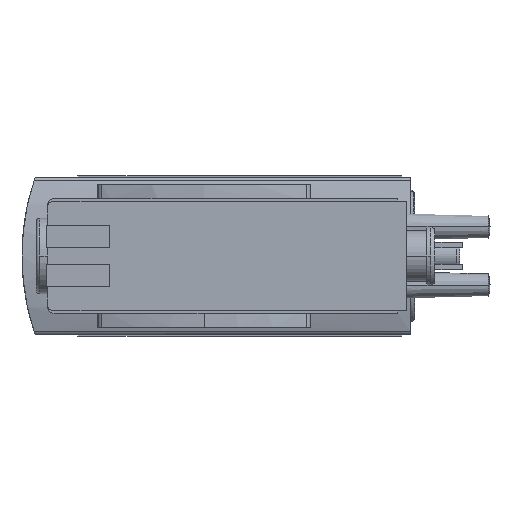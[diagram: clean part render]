
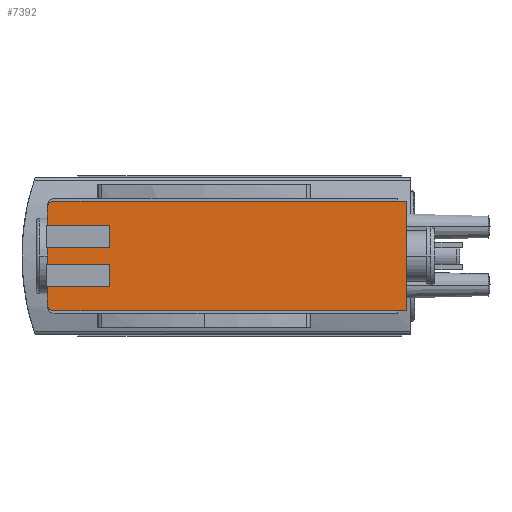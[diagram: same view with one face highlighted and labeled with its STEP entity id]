
A CAD part, left-side view. The second image highlights one B-rep face of the part: STEP entity #7392.
In plain terms, the highlighted planar face has unit normal (-1, 0, 0).
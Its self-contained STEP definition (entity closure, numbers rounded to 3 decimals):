
#270 = ORIENTED_EDGE ( 'NONE', *, *, #10659, .F. ) ;
#406 = ORIENTED_EDGE ( 'NONE', *, *, #8099, .F. ) ;
#555 = CARTESIAN_POINT ( 'NONE',  ( -71.35, 26.15, 0.75 ) ) ;
#593 = DIRECTION ( 'NONE',  ( 0., 0., 1. ) ) ;
#823 = AXIS2_PLACEMENT_3D ( 'NONE', #4432, #14980, #5825 ) ;
#1229 = CARTESIAN_POINT ( 'NONE',  ( -71.35, 31.731, 4.4 ) ) ;
#1341 = DIRECTION ( 'NONE',  ( 0., -1., 0. ) ) ;
#1432 = CARTESIAN_POINT ( 'NONE',  ( -71.35, 29.631, -0.75 ) ) ;
#1532 = ORIENTED_EDGE ( 'NONE', *, *, #5863, .T. ) ;
#1560 = CARTESIAN_POINT ( 'NONE',  ( -71.35, -0.45, -4.9 ) ) ;
#1659 = CIRCLE ( 'NONE', #823, 0.5 ) ;
#1735 = DIRECTION ( 'NONE',  ( 0., 0., 1. ) ) ;
#1755 = VECTOR ( 'NONE', #1735, 1000. ) ;
#1895 = CARTESIAN_POINT ( 'NONE',  ( -71.35, 31.231, -4.9 ) ) ;
#1948 = VERTEX_POINT ( 'NONE', #1560 ) ;
#2012 = LINE ( 'NONE', #7342, #12305 ) ;
#2026 = VERTEX_POINT ( 'NONE', #16466 ) ;
#2312 = VECTOR ( 'NONE', #17006, 1000. ) ;
#2545 = LINE ( 'NONE', #1229, #15784 ) ;
#2740 = LINE ( 'NONE', #7708, #8446 ) ;
#2876 = VECTOR ( 'NONE', #6023, 1000. ) ;
#3172 = AXIS2_PLACEMENT_3D ( 'NONE', #4460, #15261, #11264 ) ;
#3396 = CARTESIAN_POINT ( 'NONE',  ( -71.35, 31.731, 4.4 ) ) ;
#3590 = ORIENTED_EDGE ( 'NONE', *, *, #13694, .F. ) ;
#3740 = EDGE_CURVE ( 'NONE', #10544, #11426, #16564, .T. ) ;
#3948 = LINE ( 'NONE', #5160, #2312 ) ;
#4032 = DIRECTION ( 'NONE',  ( 0., 0., 1. ) ) ;
#4161 = EDGE_CURVE ( 'NONE', #9317, #2026, #4946, .T. ) ;
#4294 = DIRECTION ( 'NONE',  ( 0., 0., 1. ) ) ;
#4319 = DIRECTION ( 'NONE',  ( 0., 0., -1. ) ) ;
#4343 = CARTESIAN_POINT ( 'NONE',  ( -71.35, -0.45, -6. ) ) ;
#4348 = EDGE_CURVE ( 'NONE', #11379, #1948, #13469, .T. ) ;
#4432 = CARTESIAN_POINT ( 'NONE',  ( -71.35, 31.231, -4.4 ) ) ;
#4460 = CARTESIAN_POINT ( 'NONE',  ( -71.35, 28.366, 4.4 ) ) ;
#4946 = LINE ( 'NONE', #16071, #12627 ) ;
#5160 = CARTESIAN_POINT ( 'NONE',  ( -71.35, 31.731, 4.4 ) ) ;
#5349 = VERTEX_POINT ( 'NONE', #12641 ) ;
#5602 = CARTESIAN_POINT ( 'NONE',  ( -71.35, 26.15, 4.4 ) ) ;
#5616 = VERTEX_POINT ( 'NONE', #9910 ) ;
#5628 = CARTESIAN_POINT ( 'NONE',  ( -71.35, -0.85, -4.9 ) ) ;
#5677 = LINE ( 'NONE', #5751, #1755 ) ;
#5714 = DIRECTION ( 'NONE',  ( 1., 0., 0. ) ) ;
#5751 = CARTESIAN_POINT ( 'NONE',  ( -71.35, 26.15, 4.4 ) ) ;
#5790 = CARTESIAN_POINT ( 'NONE',  ( -71.35, 31.231, 4.4 ) ) ;
#5825 = DIRECTION ( 'NONE',  ( 0., 0., -1. ) ) ;
#5863 = EDGE_CURVE ( 'NONE', #11558, #5349, #13213, .T. ) ;
#6023 = DIRECTION ( 'NONE',  ( 0., 1., 0. ) ) ;
#6080 = ORIENTED_EDGE ( 'NONE', *, *, #8369, .F. ) ;
#6173 = VECTOR ( 'NONE', #593, 1000. ) ;
#6352 = ORIENTED_EDGE ( 'NONE', *, *, #10848, .F. ) ;
#6418 = VERTEX_POINT ( 'NONE', #8252 ) ;
#6427 = ORIENTED_EDGE ( 'NONE', *, *, #3740, .T. ) ;
#6822 = EDGE_CURVE ( 'NONE', #14188, #15875, #2740, .T. ) ;
#6958 = CARTESIAN_POINT ( 'NONE',  ( -71.35, -0.45, 4.9 ) ) ;
#7150 = VERTEX_POINT ( 'NONE', #15620 ) ;
#7236 = LINE ( 'NONE', #3396, #6173 ) ;
#7342 = CARTESIAN_POINT ( 'NONE',  ( -71.35, 29.397, 2.75 ) ) ;
#7392 = ADVANCED_FACE ( 'NONE', ( #11170 ), #15434, .F. ) ;
#7656 = CARTESIAN_POINT ( 'NONE',  ( -71.35, 31.731, -0.75 ) ) ;
#7708 = CARTESIAN_POINT ( 'NONE',  ( -71.35, 26.15, 0.75 ) ) ;
#7798 = VECTOR ( 'NONE', #9805, 1000. ) ;
#8099 = EDGE_CURVE ( 'NONE', #5616, #2026, #15407, .T. ) ;
#8252 = CARTESIAN_POINT ( 'NONE',  ( -71.35, 26.15, 2.75 ) ) ;
#8368 = ORIENTED_EDGE ( 'NONE', *, *, #8879, .F. ) ;
#8369 = EDGE_CURVE ( 'NONE', #11441, #5616, #3948, .T. ) ;
#8446 = VECTOR ( 'NONE', #15894, 1000. ) ;
#8620 = EDGE_CURVE ( 'NONE', #11441, #6418, #2012, .T. ) ;
#8879 = EDGE_CURVE ( 'NONE', #10544, #5349, #5677, .T. ) ;
#8984 = EDGE_CURVE ( 'NONE', #7150, #11426, #7236, .T. ) ;
#9123 = CARTESIAN_POINT ( 'NONE',  ( -71.35, 31.731, -2.75 ) ) ;
#9317 = VERTEX_POINT ( 'NONE', #6958 ) ;
#9498 = VECTOR ( 'NONE', #13832, 1000. ) ;
#9543 = VECTOR ( 'NONE', #1341, 1000. ) ;
#9805 = DIRECTION ( 'NONE',  ( 0., -1., 0. ) ) ;
#9910 = CARTESIAN_POINT ( 'NONE',  ( -71.35, 31.731, 4.4 ) ) ;
#10544 = VERTEX_POINT ( 'NONE', #15280 ) ;
#10659 = EDGE_CURVE ( 'NONE', #11558, #15875, #2545, .T. ) ;
#10689 = AXIS2_PLACEMENT_3D ( 'NONE', #5790, #5714, #4319 ) ;
#10848 = EDGE_CURVE ( 'NONE', #14188, #6418, #14920, .T. ) ;
#10889 = LINE ( 'NONE', #4343, #9498 ) ;
#11004 = ORIENTED_EDGE ( 'NONE', *, *, #6822, .T. ) ;
#11170 = FACE_OUTER_BOUND ( 'NONE', #16996, .T. ) ;
#11201 = ORIENTED_EDGE ( 'NONE', *, *, #8620, .T. ) ;
#11264 = DIRECTION ( 'NONE',  ( 0., 0., -1. ) ) ;
#11379 = VERTEX_POINT ( 'NONE', #1895 ) ;
#11426 = VERTEX_POINT ( 'NONE', #9123 ) ;
#11441 = VERTEX_POINT ( 'NONE', #14353 ) ;
#11558 = VERTEX_POINT ( 'NONE', #7656 ) ;
#12305 = VECTOR ( 'NONE', #15516, 1000. ) ;
#12473 = CARTESIAN_POINT ( 'NONE',  ( -71.35, 26.15, -2.75 ) ) ;
#12627 = VECTOR ( 'NONE', #13378, 1000. ) ;
#12641 = CARTESIAN_POINT ( 'NONE',  ( -71.35, 26.15, -0.75 ) ) ;
#13213 = LINE ( 'NONE', #1432, #9543 ) ;
#13378 = DIRECTION ( 'NONE',  ( 0., 1., 0. ) ) ;
#13469 = LINE ( 'NONE', #5628, #7798 ) ;
#13694 = EDGE_CURVE ( 'NONE', #9317, #1948, #10889, .T. ) ;
#13832 = DIRECTION ( 'NONE',  ( 0., 0., -1. ) ) ;
#13983 = ORIENTED_EDGE ( 'NONE', *, *, #4161, .T. ) ;
#14188 = VERTEX_POINT ( 'NONE', #555 ) ;
#14353 = CARTESIAN_POINT ( 'NONE',  ( -71.35, 31.731, 2.75 ) ) ;
#14570 = CARTESIAN_POINT ( 'NONE',  ( -71.35, 31.731, 0.75 ) ) ;
#14699 = VECTOR ( 'NONE', #4294, 1000. ) ;
#14920 = LINE ( 'NONE', #5602, #14699 ) ;
#14980 = DIRECTION ( 'NONE',  ( 1., 0., 0. ) ) ;
#15261 = DIRECTION ( 'NONE',  ( 1., 0., 0. ) ) ;
#15280 = CARTESIAN_POINT ( 'NONE',  ( -71.35, 26.15, -2.75 ) ) ;
#15325 = ORIENTED_EDGE ( 'NONE', *, *, #17169, .F. ) ;
#15407 = CIRCLE ( 'NONE', #10689, 0.5 ) ;
#15434 = PLANE ( 'NONE',  #3172 ) ;
#15516 = DIRECTION ( 'NONE',  ( 0., -1., 0. ) ) ;
#15620 = CARTESIAN_POINT ( 'NONE',  ( -71.35, 31.731, -4.4 ) ) ;
#15645 = ORIENTED_EDGE ( 'NONE', *, *, #4348, .T. ) ;
#15784 = VECTOR ( 'NONE', #4032, 1000. ) ;
#15875 = VERTEX_POINT ( 'NONE', #14570 ) ;
#15894 = DIRECTION ( 'NONE',  ( 0., 1., 0. ) ) ;
#16071 = CARTESIAN_POINT ( 'NONE',  ( -71.35, 28.366, 4.9 ) ) ;
#16466 = CARTESIAN_POINT ( 'NONE',  ( -71.35, 31.231, 4.9 ) ) ;
#16564 = LINE ( 'NONE', #12473, #2876 ) ;
#16996 = EDGE_LOOP ( 'NONE', ( #6080, #11201, #6352, #11004, #270, #1532, #8368, #6427, #17120, #15325, #15645, #3590, #13983, #406 ) ) ;
#17006 = DIRECTION ( 'NONE',  ( 0., 0., 1. ) ) ;
#17120 = ORIENTED_EDGE ( 'NONE', *, *, #8984, .F. ) ;
#17169 = EDGE_CURVE ( 'NONE', #11379, #7150, #1659, .T. ) ;
